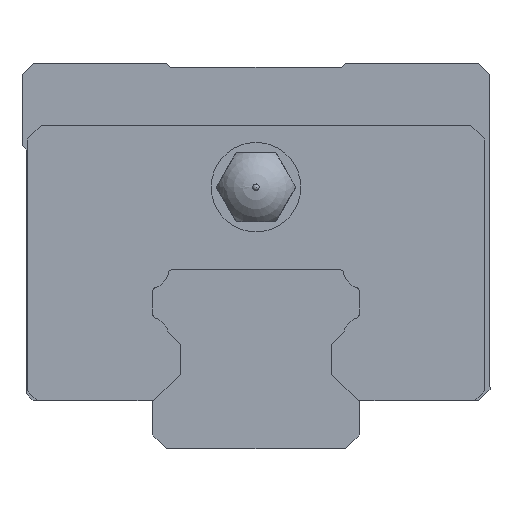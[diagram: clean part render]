
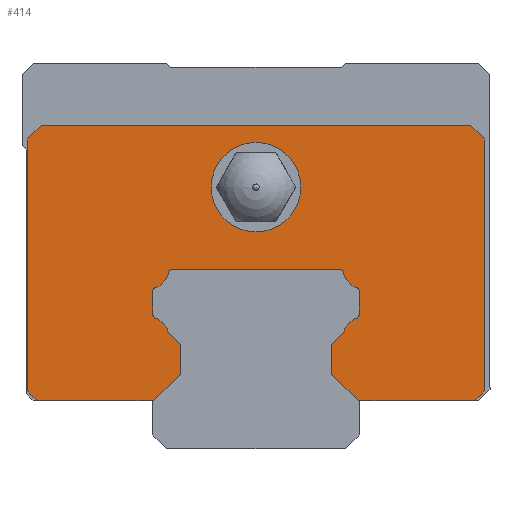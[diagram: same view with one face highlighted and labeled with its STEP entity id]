
A CAD part, front view. The second image highlights one B-rep face of the part: STEP entity #414.
In plain terms, the highlighted planar face has unit normal (0, -1, 0).
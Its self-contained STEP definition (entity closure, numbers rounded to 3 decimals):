
#163=FACE_BOUND('',#724,.T.);
#164=FACE_BOUND('',#725,.T.);
#285=CIRCLE('',#2353,0.3);
#287=CIRCLE('',#2356,1.4);
#289=CIRCLE('',#2365,1.4);
#291=CIRCLE('',#2368,0.3);
#293=CIRCLE('',#2372,0.3);
#295=CIRCLE('',#2375,1.4);
#297=CIRCLE('',#2378,0.3);
#299=CIRCLE('',#2382,0.3);
#301=CIRCLE('',#2385,1.4);
#303=CIRCLE('',#2388,0.3);
#308=CIRCLE('',#2401,3.25);
#414=ADVANCED_FACE('',(#163,#164),#513,.T.);
#513=PLANE('',#2403);
#724=EDGE_LOOP('',(#1183,#1184,#1185,#1186,#1187,#1188,#1189,#1190,#1191,#1192,#1193,#1194,#1195,#1196,#1197,#1198,#1199,#1200,#1201,#1202,#1203,#1204,#1205,#1206,#1207,#1208,#1209,#1210));
#725=EDGE_LOOP('',(#1211));
#1183=ORIENTED_EDGE('',*,*,#1753,.F.);
#1184=ORIENTED_EDGE('',*,*,#1750,.F.);
#1185=ORIENTED_EDGE('',*,*,#1747,.F.);
#1186=ORIENTED_EDGE('',*,*,#1744,.F.);
#1187=ORIENTED_EDGE('',*,*,#1741,.F.);
#1188=ORIENTED_EDGE('',*,*,#1738,.F.);
#1189=ORIENTED_EDGE('',*,*,#1791,.F.);
#1190=ORIENTED_EDGE('',*,*,#1788,.F.);
#1191=ORIENTED_EDGE('',*,*,#1785,.F.);
#1192=ORIENTED_EDGE('',*,*,#1782,.F.);
#1193=ORIENTED_EDGE('',*,*,#1779,.F.);
#1194=ORIENTED_EDGE('',*,*,#1776,.F.);
#1195=ORIENTED_EDGE('',*,*,#1773,.F.);
#1196=ORIENTED_EDGE('',*,*,#1770,.F.);
#1197=ORIENTED_EDGE('',*,*,#1767,.F.);
#1198=ORIENTED_EDGE('',*,*,#1764,.F.);
#1199=ORIENTED_EDGE('',*,*,#1761,.F.);
#1200=ORIENTED_EDGE('',*,*,#1758,.F.);
#1201=ORIENTED_EDGE('',*,*,#1755,.F.);
#1202=ORIENTED_EDGE('',*,*,#1686,.T.);
#1203=ORIENTED_EDGE('',*,*,#1794,.T.);
#1204=ORIENTED_EDGE('',*,*,#1797,.T.);
#1205=ORIENTED_EDGE('',*,*,#1799,.T.);
#1206=ORIENTED_EDGE('',*,*,#1801,.T.);
#1207=ORIENTED_EDGE('',*,*,#1803,.T.);
#1208=ORIENTED_EDGE('',*,*,#1806,.T.);
#1209=ORIENTED_EDGE('',*,*,#1807,.T.);
#1210=ORIENTED_EDGE('',*,*,#1666,.T.);
#1211=ORIENTED_EDGE('',*,*,#1809,.F.);
#1431=VERTEX_POINT('',#3273);
#1433=VERTEX_POINT('',#3276);
#1444=VERTEX_POINT('',#3303);
#1450=VERTEX_POINT('',#3315);
#1488=VERTEX_POINT('',#3419);
#1489=VERTEX_POINT('',#3421);
#1491=VERTEX_POINT('',#3427);
#1493=VERTEX_POINT('',#3433);
#1495=VERTEX_POINT('',#3439);
#1497=VERTEX_POINT('',#3445);
#1499=VERTEX_POINT('',#3454);
#1501=VERTEX_POINT('',#3460);
#1503=VERTEX_POINT('',#3466);
#1505=VERTEX_POINT('',#3472);
#1507=VERTEX_POINT('',#3478);
#1509=VERTEX_POINT('',#3484);
#1511=VERTEX_POINT('',#3490);
#1513=VERTEX_POINT('',#3496);
#1515=VERTEX_POINT('',#3502);
#1517=VERTEX_POINT('',#3508);
#1519=VERTEX_POINT('',#3514);
#1521=VERTEX_POINT('',#3520);
#1523=VERTEX_POINT('',#3529);
#1525=VERTEX_POINT('',#3535);
#1526=VERTEX_POINT('',#3539);
#1527=VERTEX_POINT('',#3543);
#1528=VERTEX_POINT('',#3547);
#1530=VERTEX_POINT('',#3553);
#1532=VERTEX_POINT('',#3561);
#1666=EDGE_CURVE('',#1433,#1431,#1924,.T.);
#1686=EDGE_CURVE('',#1444,#1450,#1944,.T.);
#1738=EDGE_CURVE('',#1488,#1489,#1992,.T.);
#1741=EDGE_CURVE('',#1489,#1491,#285,.T.);
#1744=EDGE_CURVE('',#1491,#1493,#287,.T.);
#1747=EDGE_CURVE('',#1493,#1495,#1997,.T.);
#1750=EDGE_CURVE('',#1495,#1497,#2000,.T.);
#1753=EDGE_CURVE('',#1497,#1431,#2003,.T.);
#1755=EDGE_CURVE('',#1444,#1499,#2005,.T.);
#1758=EDGE_CURVE('',#1499,#1501,#2008,.T.);
#1761=EDGE_CURVE('',#1501,#1503,#2011,.T.);
#1764=EDGE_CURVE('',#1503,#1505,#289,.T.);
#1767=EDGE_CURVE('',#1505,#1507,#291,.T.);
#1770=EDGE_CURVE('',#1507,#1509,#2016,.T.);
#1773=EDGE_CURVE('',#1509,#1511,#293,.T.);
#1776=EDGE_CURVE('',#1511,#1513,#295,.T.);
#1779=EDGE_CURVE('',#1513,#1515,#297,.T.);
#1782=EDGE_CURVE('',#1515,#1517,#2022,.T.);
#1785=EDGE_CURVE('',#1517,#1519,#299,.T.);
#1788=EDGE_CURVE('',#1519,#1521,#301,.T.);
#1791=EDGE_CURVE('',#1521,#1488,#303,.T.);
#1794=EDGE_CURVE('',#1450,#1523,#2028,.T.);
#1797=EDGE_CURVE('',#1523,#1525,#2030,.T.);
#1799=EDGE_CURVE('',#1525,#1526,#2032,.T.);
#1801=EDGE_CURVE('',#1526,#1527,#2034,.T.);
#1803=EDGE_CURVE('',#1527,#1528,#2036,.T.);
#1806=EDGE_CURVE('',#1528,#1530,#2038,.T.);
#1807=EDGE_CURVE('',#1530,#1433,#2039,.T.);
#1809=EDGE_CURVE('',#1532,#1532,#308,.T.);
#1924=LINE('',#3275,#2120);
#1944=LINE('',#3316,#2140);
#1992=LINE('',#3420,#2188);
#1997=LINE('',#3438,#2193);
#2000=LINE('',#3444,#2196);
#2003=LINE('',#3450,#2199);
#2005=LINE('',#3453,#2201);
#2008=LINE('',#3459,#2204);
#2011=LINE('',#3465,#2207);
#2016=LINE('',#3483,#2212);
#2022=LINE('',#3507,#2218);
#2028=LINE('',#3530,#2224);
#2030=LINE('',#3536,#2226);
#2032=LINE('',#3540,#2228);
#2034=LINE('',#3544,#2230);
#2036=LINE('',#3548,#2232);
#2038=LINE('',#3554,#2234);
#2039=LINE('',#3556,#2235);
#2120=VECTOR('',#2663,1.);
#2140=VECTOR('',#2689,1.);
#2188=VECTOR('',#2773,1.);
#2193=VECTOR('',#2792,1.);
#2196=VECTOR('',#2797,1.);
#2199=VECTOR('',#2802,1.);
#2201=VECTOR('',#2806,1.);
#2204=VECTOR('',#2811,1.);
#2207=VECTOR('',#2816,1.);
#2212=VECTOR('',#2835,1.);
#2218=VECTOR('',#2861,1.);
#2224=VECTOR('',#2887,1.);
#2226=VECTOR('',#2893,1.);
#2228=VECTOR('',#2897,1.);
#2230=VECTOR('',#2901,1.);
#2232=VECTOR('',#2905,1.);
#2234=VECTOR('',#2911,1.);
#2235=VECTOR('',#2914,1.);
#2353=AXIS2_PLACEMENT_3D('',#3426,#2778,#2779);
#2356=AXIS2_PLACEMENT_3D('',#3432,#2785,#2786);
#2365=AXIS2_PLACEMENT_3D('',#3471,#2821,#2822);
#2368=AXIS2_PLACEMENT_3D('',#3477,#2828,#2829);
#2372=AXIS2_PLACEMENT_3D('',#3489,#2840,#2841);
#2375=AXIS2_PLACEMENT_3D('',#3495,#2847,#2848);
#2378=AXIS2_PLACEMENT_3D('',#3501,#2854,#2855);
#2382=AXIS2_PLACEMENT_3D('',#3513,#2866,#2867);
#2385=AXIS2_PLACEMENT_3D('',#3519,#2873,#2874);
#2388=AXIS2_PLACEMENT_3D('',#3525,#2880,#2881);
#2401=AXIS2_PLACEMENT_3D('',#3560,#2919,#2920);
#2403=AXIS2_PLACEMENT_3D('',#3563,#2923,#2924);
#2663=DIRECTION('',(1.,0.,0.));
#2689=DIRECTION('',(1.,0.,0.));
#2773=DIRECTION('',(0.,0.,-1.));
#2778=DIRECTION('',(0.,-1.,0.));
#2779=DIRECTION('',(0.,0.,-1.));
#2785=DIRECTION('',(0.,1.,0.));
#2786=DIRECTION('',(0.,0.,-1.));
#2792=DIRECTION('',(0.707,0.,-0.707));
#2797=DIRECTION('',(0.,0.,-1.));
#2802=DIRECTION('',(-0.707,0.,-0.707));
#2806=DIRECTION('',(-0.707,0.,0.707));
#2811=DIRECTION('',(0.,0.,1.));
#2816=DIRECTION('',(0.707,0.,0.707));
#2821=DIRECTION('',(0.,1.,0.));
#2822=DIRECTION('',(0.,0.,-1.));
#2828=DIRECTION('',(0.,-1.,0.));
#2829=DIRECTION('',(0.,0.,-1.));
#2835=DIRECTION('',(0.,0.,1.));
#2840=DIRECTION('',(0.,-1.,0.));
#2841=DIRECTION('',(0.,0.,-1.));
#2847=DIRECTION('',(0.,1.,0.));
#2848=DIRECTION('',(0.,0.,-1.));
#2854=DIRECTION('',(0.,-1.,0.));
#2855=DIRECTION('',(0.,0.,-1.));
#2861=DIRECTION('',(-1.,0.,0.));
#2866=DIRECTION('',(0.,-1.,0.));
#2867=DIRECTION('',(0.,0.,-1.));
#2873=DIRECTION('',(0.,1.,0.));
#2874=DIRECTION('',(0.,0.,-1.));
#2880=DIRECTION('',(0.,-1.,0.));
#2881=DIRECTION('',(0.,0.,-1.));
#2887=DIRECTION('',(0.707,0.,0.707));
#2893=DIRECTION('',(0.,0.,1.));
#2897=DIRECTION('',(-0.707,0.,0.707));
#2901=DIRECTION('',(-1.,0.,0.));
#2905=DIRECTION('',(-0.707,0.,-0.707));
#2911=DIRECTION('',(0.,0.,-1.));
#2914=DIRECTION('',(0.707,0.,-0.707));
#2919=DIRECTION('',(0.,-1.,0.));
#2920=DIRECTION('',(1.,0.,0.));
#2923=DIRECTION('',(0.,-1.,0.));
#2924=DIRECTION('',(0.,0.,-1.));
#3273=CARTESIAN_POINT('',(-7.4,0.,3.5));
#3275=CARTESIAN_POINT('',(-15.9,0.,3.5));
#3276=CARTESIAN_POINT('',(-15.9,0.,3.5));
#3303=CARTESIAN_POINT('',(7.4,0.,3.5));
#3315=CARTESIAN_POINT('',(15.9,0.,3.5));
#3316=CARTESIAN_POINT('',(-15.9,0.,3.5));
#3419=CARTESIAN_POINT('',(-7.5,0.,11.428));
#3420=CARTESIAN_POINT('',(-7.5,0.,19.));
#3421=CARTESIAN_POINT('',(-7.5,0.,9.772));
#3426=CARTESIAN_POINT('',(-7.2,0.,9.772));
#3427=CARTESIAN_POINT('',(-7.295,0.,9.488));
#3432=CARTESIAN_POINT('',(-7.74,0.,8.16));
#3433=CARTESIAN_POINT('',(-6.376,0.,8.476));
#3438=CARTESIAN_POINT('',(-8.45,0.,10.55));
#3439=CARTESIAN_POINT('',(-5.5,0.,7.6));
#3444=CARTESIAN_POINT('',(-5.5,0.,19.));
#3445=CARTESIAN_POINT('',(-5.5,0.,5.4));
#3450=CARTESIAN_POINT('',(4.05,0.,14.95));
#3453=CARTESIAN_POINT('',(-4.05,0.,14.95));
#3454=CARTESIAN_POINT('',(5.5,0.,5.4));
#3459=CARTESIAN_POINT('',(5.5,0.,19.));
#3460=CARTESIAN_POINT('',(5.5,0.,7.6));
#3465=CARTESIAN_POINT('',(8.45,0.,10.55));
#3466=CARTESIAN_POINT('',(6.376,0.,8.476));
#3471=CARTESIAN_POINT('',(7.74,0.,8.16));
#3472=CARTESIAN_POINT('',(7.295,0.,9.488));
#3477=CARTESIAN_POINT('',(7.2,0.,9.772));
#3478=CARTESIAN_POINT('',(7.5,0.,9.772));
#3483=CARTESIAN_POINT('',(7.5,0.,19.));
#3484=CARTESIAN_POINT('',(7.5,0.,11.428));
#3489=CARTESIAN_POINT('',(7.2,0.,11.428));
#3490=CARTESIAN_POINT('',(7.295,0.,11.712));
#3495=CARTESIAN_POINT('',(7.74,0.,13.04));
#3496=CARTESIAN_POINT('',(6.368,0.,12.76));
#3501=CARTESIAN_POINT('',(6.074,0.,12.7));
#3502=CARTESIAN_POINT('',(6.074,0.,13.));
#3507=CARTESIAN_POINT('',(0.,0.,13.));
#3508=CARTESIAN_POINT('',(-6.074,0.,13.));
#3513=CARTESIAN_POINT('',(-6.074,0.,12.7));
#3514=CARTESIAN_POINT('',(-6.368,0.,12.76));
#3519=CARTESIAN_POINT('',(-7.74,0.,13.04));
#3520=CARTESIAN_POINT('',(-7.295,0.,11.712));
#3525=CARTESIAN_POINT('',(-7.2,0.,11.428));
#3529=CARTESIAN_POINT('',(16.6,0.,4.2));
#3530=CARTESIAN_POINT('',(15.9,0.,3.5));
#3535=CARTESIAN_POINT('',(16.6,0.,22.5));
#3536=CARTESIAN_POINT('',(16.6,0.,4.2));
#3539=CARTESIAN_POINT('',(15.6,0.,23.5));
#3540=CARTESIAN_POINT('',(16.6,0.,22.5));
#3543=CARTESIAN_POINT('',(-15.6,0.,23.5));
#3544=CARTESIAN_POINT('',(15.6,0.,23.5));
#3547=CARTESIAN_POINT('',(-16.6,0.,22.5));
#3548=CARTESIAN_POINT('',(-15.6,0.,23.5));
#3553=CARTESIAN_POINT('',(-16.6,0.,4.2));
#3554=CARTESIAN_POINT('',(-16.6,0.,22.5));
#3556=CARTESIAN_POINT('',(-16.6,0.,4.2));
#3560=CARTESIAN_POINT('',(0.,0.,19.));
#3561=CARTESIAN_POINT('',(3.25,0.,19.));
#3563=CARTESIAN_POINT('',(0.,0.,19.));
